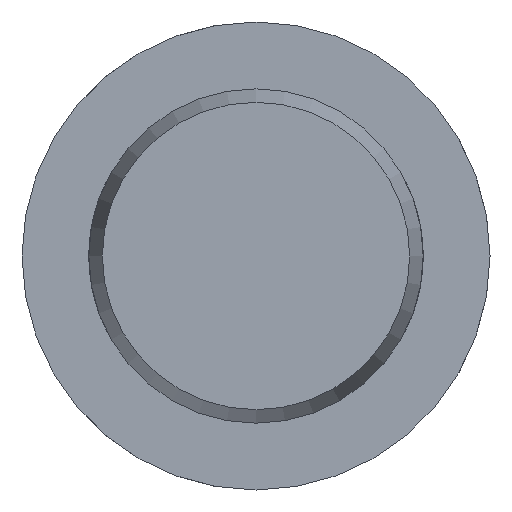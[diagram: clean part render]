
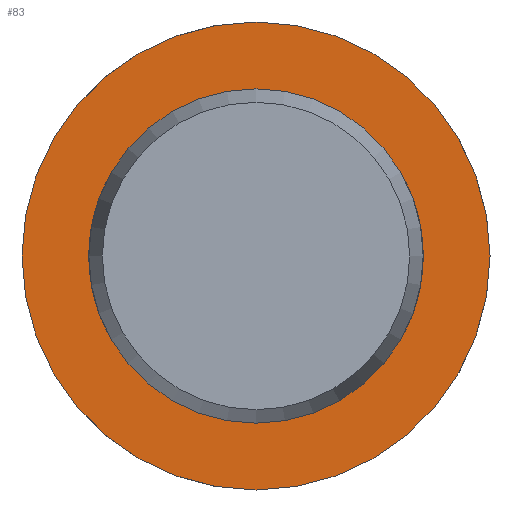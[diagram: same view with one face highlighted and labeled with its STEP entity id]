
A CAD part, left-side view. The second image highlights one B-rep face of the part: STEP entity #83.
In plain terms, the highlighted planar face has unit normal (-1, 0, 0).
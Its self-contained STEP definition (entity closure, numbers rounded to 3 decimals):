
#83 = ADVANCED_FACE( '', ( #129, #130 ), #131, .F. );
#129 = FACE_OUTER_BOUND( '', #208, .T. );
#130 = FACE_BOUND( '', #209, .T. );
#131 = PLANE( '', #210 );
#208 = EDGE_LOOP( '', ( #325 ) );
#209 = EDGE_LOOP( '', ( #326 ) );
#210 = AXIS2_PLACEMENT_3D( '', #327, #328, #329 );
#325 = ORIENTED_EDGE( '', *, *, #493, .F. );
#326 = ORIENTED_EDGE( '', *, *, #483, .T. );
#327 = CARTESIAN_POINT( '', ( 170.5, 10., 0. ) );
#328 = DIRECTION( '', ( 1., 0., 0. ) );
#329 = DIRECTION( '', ( 0., 0., -1. ) );
#483 = EDGE_CURVE( '', #554, #554, #555, .T. );
#493 = EDGE_CURVE( '', #572, #572, #573, .T. );
#554 = VERTEX_POINT( '', #759 );
#555 = CIRCLE( '', #760, 10. );
#572 = VERTEX_POINT( '', #942 );
#573 = CIRCLE( '', #943, 14. );
#759 = CARTESIAN_POINT( '', ( 170.5, 0., -10. ) );
#760 = AXIS2_PLACEMENT_3D( '', #1006, #1007, #1008 );
#942 = CARTESIAN_POINT( '', ( 170.5, 0., -14. ) );
#943 = AXIS2_PLACEMENT_3D( '', #1027, #1028, #1029 );
#1006 = CARTESIAN_POINT( '', ( 170.5, 0., 0. ) );
#1007 = DIRECTION( '', ( 1., 0., 0. ) );
#1008 = DIRECTION( '', ( 0., 0., -1. ) );
#1027 = CARTESIAN_POINT( '', ( 170.5, 0., 0. ) );
#1028 = DIRECTION( '', ( 1., 0., 0. ) );
#1029 = DIRECTION( '', ( 0., 0., -1. ) );
